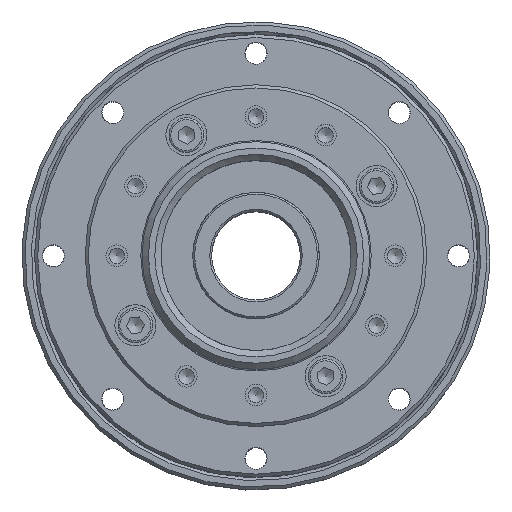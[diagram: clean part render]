
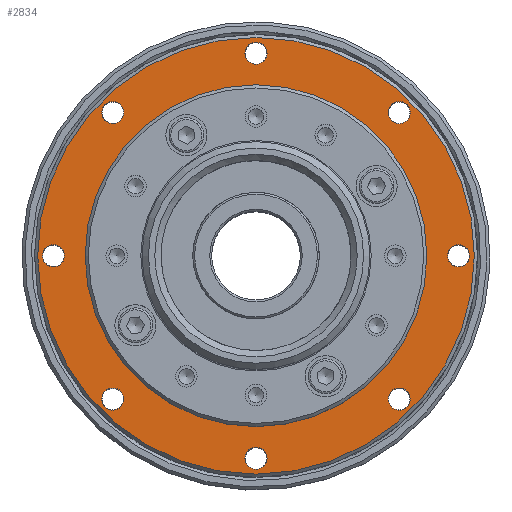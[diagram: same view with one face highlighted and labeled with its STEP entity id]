
A CAD part, top view. The second image highlights one B-rep face of the part: STEP entity #2834.
In plain terms, the highlighted planar face has unit normal (0, 0, 1).
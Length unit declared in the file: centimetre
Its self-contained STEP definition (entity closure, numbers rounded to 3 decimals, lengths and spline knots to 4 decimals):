
#609=FACE_BOUND($,#1144,.T.);
#610=FACE_BOUND($,#1145,.T.);
#611=FACE_BOUND($,#1146,.T.);
#612=FACE_BOUND($,#1147,.T.);
#613=FACE_BOUND($,#1148,.T.);
#614=FACE_BOUND($,#1149,.T.);
#615=FACE_BOUND($,#1150,.T.);
#616=FACE_BOUND($,#1151,.T.);
#617=FACE_BOUND($,#1152,.T.);
#618=FACE_BOUND($,#1153,.T.);
#1144=EDGE_LOOP($,(#2386));
#1145=EDGE_LOOP($,(#2387));
#1146=EDGE_LOOP($,(#2388));
#1147=EDGE_LOOP($,(#2389));
#1148=EDGE_LOOP($,(#2390));
#1149=EDGE_LOOP($,(#2391));
#1150=EDGE_LOOP($,(#2392));
#1151=EDGE_LOOP($,(#2393));
#1152=EDGE_LOOP($,(#2394));
#1153=EDGE_LOOP($,(#2395));
#1383=CIRCLE($,#3158,2.45);
#1386=CIRCLE($,#3164,0.175);
#1388=CIRCLE($,#3167,0.175);
#1390=CIRCLE($,#3170,0.175);
#1392=CIRCLE($,#3173,0.175);
#1394=CIRCLE($,#3176,0.175);
#1396=CIRCLE($,#3179,0.175);
#1398=CIRCLE($,#3182,0.175);
#1400=CIRCLE($,#3185,0.175);
#1403=CIRCLE($,#3190,3.45);
#1607=VERTEX_POINT($,#4900);
#1610=VERTEX_POINT($,#4909);
#1612=VERTEX_POINT($,#4914);
#1614=VERTEX_POINT($,#4919);
#1616=VERTEX_POINT($,#4924);
#1618=VERTEX_POINT($,#4929);
#1620=VERTEX_POINT($,#4934);
#1622=VERTEX_POINT($,#4939);
#1624=VERTEX_POINT($,#4944);
#1627=VERTEX_POINT($,#4952);
#1886=EDGE_CURVE($,#1607,#1607,#1383,.T.);
#1889=EDGE_CURVE($,#1610,#1610,#1386,.T.);
#1891=EDGE_CURVE($,#1612,#1612,#1388,.T.);
#1893=EDGE_CURVE($,#1614,#1614,#1390,.T.);
#1895=EDGE_CURVE($,#1616,#1616,#1392,.T.);
#1897=EDGE_CURVE($,#1618,#1618,#1394,.T.);
#1899=EDGE_CURVE($,#1620,#1620,#1396,.T.);
#1901=EDGE_CURVE($,#1622,#1622,#1398,.T.);
#1903=EDGE_CURVE($,#1624,#1624,#1400,.T.);
#1906=EDGE_CURVE($,#1627,#1627,#1403,.T.);
#2386=ORIENTED_EDGE($,*,*,#1886,.F.);
#2387=ORIENTED_EDGE($,*,*,#1889,.T.);
#2388=ORIENTED_EDGE($,*,*,#1891,.T.);
#2389=ORIENTED_EDGE($,*,*,#1893,.T.);
#2390=ORIENTED_EDGE($,*,*,#1895,.T.);
#2391=ORIENTED_EDGE($,*,*,#1897,.T.);
#2392=ORIENTED_EDGE($,*,*,#1899,.T.);
#2393=ORIENTED_EDGE($,*,*,#1901,.T.);
#2394=ORIENTED_EDGE($,*,*,#1903,.T.);
#2395=ORIENTED_EDGE($,*,*,#1906,.F.);
#2649=PLANE($,#3191);
#2834=ADVANCED_FACE($,(#609,#610,#611,#612,#613,#614,#615,#616,#617,#618),
#2649,.T.);
#3158=AXIS2_PLACEMENT_3D($,#4901,#3846,#3847);
#3164=AXIS2_PLACEMENT_3D($,#4910,#3858,#3859);
#3167=AXIS2_PLACEMENT_3D($,#4915,#3864,#3865);
#3170=AXIS2_PLACEMENT_3D($,#4920,#3870,#3871);
#3173=AXIS2_PLACEMENT_3D($,#4925,#3876,#3877);
#3176=AXIS2_PLACEMENT_3D($,#4930,#3882,#3883);
#3179=AXIS2_PLACEMENT_3D($,#4935,#3888,#3889);
#3182=AXIS2_PLACEMENT_3D($,#4940,#3894,#3895);
#3185=AXIS2_PLACEMENT_3D($,#4945,#3900,#3901);
#3190=AXIS2_PLACEMENT_3D($,#4953,#3910,#3911);
#3191=AXIS2_PLACEMENT_3D($,#4954,#3912,#3913);
#3846=DIRECTION('center_axis',(0.,0.,
1.));
#3847=DIRECTION('ref_axis',(0.5,0.866,0.));
#3858=DIRECTION('center_axis',(0.,0.,
-1.));
#3859=DIRECTION('ref_axis',(0.707,0.707,0.));
#3864=DIRECTION('center_axis',(0.,0.,
-1.));
#3865=DIRECTION('ref_axis',(1.,0.,0.));
#3870=DIRECTION('center_axis',(0.,0.,
-1.));
#3871=DIRECTION('ref_axis',(0.707,-0.707,0.));
#3876=DIRECTION('center_axis',(0.,0.,
-1.));
#3877=DIRECTION('ref_axis',(0.,-1.,0.));
#3882=DIRECTION('center_axis',(0.,0.,
-1.));
#3883=DIRECTION('ref_axis',(-0.707,-0.707,0.));
#3888=DIRECTION('center_axis',(0.,0.,
-1.));
#3889=DIRECTION('ref_axis',(-1.,0.,0.));
#3894=DIRECTION('center_axis',(0.,0.,
-1.));
#3895=DIRECTION('ref_axis',(-0.707,0.707,0.));
#3900=DIRECTION('center_axis',(0.,0.,
-1.));
#3901=DIRECTION('ref_axis',(0.,1.,0.));
#3910=DIRECTION('center_axis',(0.,0.,
-1.));
#3911=DIRECTION('ref_axis',(1.,0.,0.));
#3912=DIRECTION('center_axis',(0.,0.,
1.));
#3913=DIRECTION('ref_axis',(0.,1.,0.));
#4900=CARTESIAN_POINT('',(-2.218,1.0407,1.41));
#4901=CARTESIAN_POINT('Origin',(0.,0.,
1.41));
#4909=CARTESIAN_POINT('',(-2.139,2.3865,1.41));
#4910=CARTESIAN_POINT('Origin',(-2.2627,2.2627,1.41));
#4914=CARTESIAN_POINT('',(0.175,3.2,1.41));
#4915=CARTESIAN_POINT('Origin',(0.,3.2,1.41));
#4919=CARTESIAN_POINT('',(2.3865,2.139,1.41));
#4920=CARTESIAN_POINT('Origin',(2.2627,2.2627,1.41));
#4924=CARTESIAN_POINT('',(3.2,-0.175,1.41));
#4925=CARTESIAN_POINT('Origin',(3.2,0.,1.41));
#4929=CARTESIAN_POINT('',(2.139,-2.3865,1.41));
#4930=CARTESIAN_POINT('Origin',(2.2627,-2.2627,1.41));
#4934=CARTESIAN_POINT('',(-0.175,-3.2,1.41));
#4935=CARTESIAN_POINT('Origin',(0.,-3.2,1.41));
#4939=CARTESIAN_POINT('',(-2.3865,-2.139,1.41));
#4940=CARTESIAN_POINT('Origin',(-2.2627,-2.2627,1.41));
#4944=CARTESIAN_POINT('',(-3.2,0.175,1.41));
#4945=CARTESIAN_POINT('Origin',(-3.2,0.,1.41));
#4952=CARTESIAN_POINT('',(-3.45,0.,1.41));
#4953=CARTESIAN_POINT('Origin',(0.,0.,
1.41));
#4954=CARTESIAN_POINT('Origin',(-2.9,0.,1.41));
